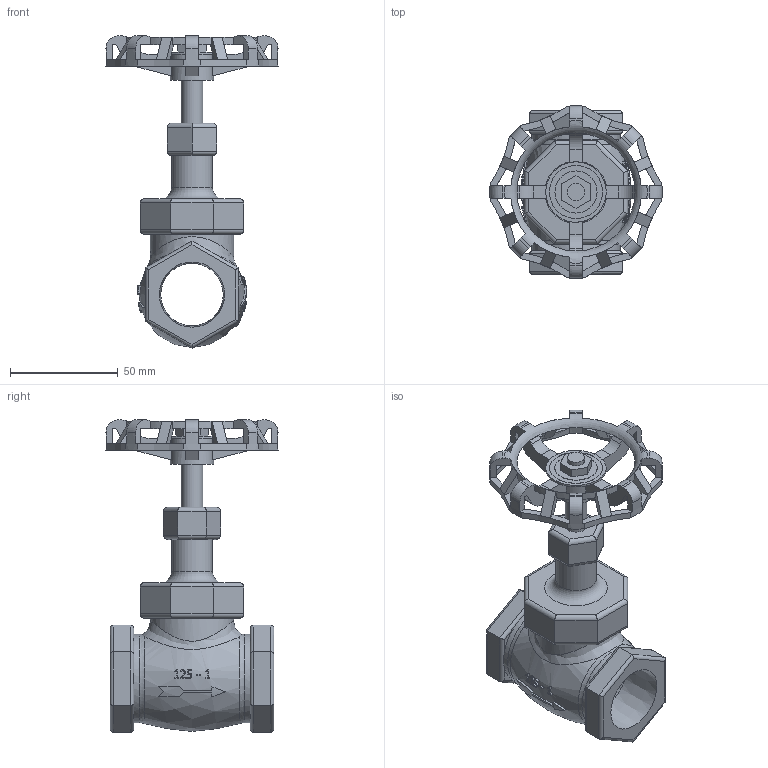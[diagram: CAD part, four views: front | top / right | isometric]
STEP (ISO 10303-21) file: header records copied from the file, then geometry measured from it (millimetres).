
FILE_DESCRIPTION(/* description */ ('ＴＯＹＯ'),/* implementation_level */ '2;1');
FILE_NAME(/* name */ 'C:\Users\Fujimoto-s\OneDrive\Inventor\WorkSpace\\X2\305D306E4ED6\X0\\ホームページ用\\X2\30C030A630F330ED30FC30C97D206750\X0\\ねじ込み継手\125C-BD-N-25A\125C-BD-N-25A.stp',/* time_stamp */ '2024-08-07T17:05:09+09:00',/* author */ ('Fujimoto-s'),/* organization */ (''),/* preprocessor_version */ 'ST-DEVELOPER v15.2',/* originating_system */ 'Autodesk Inventor 2014',/* authorisation */ '');
FILE_SCHEMA (('AUTOMOTIVE_DESIGN { 1 0 10303 214 3 1 1 }'));
Length unit declared in the file: millimetre
Products named in the file (1): 125C-BD-N-25A
Bounding box: 79.97 x 79.97 x 144.83 mm (x, y, z)
Volume: 142623.1 mm3; surface area: 40838.9 mm2
Topology: 1 solids, 1 shells, 585 faces, 1663 edges, 1074 vertices
Faces by surface type: plane 376, cylinder 127, bspline 68, torus 12, cone 2
Full cylindrical faces by diameter (mm): 8 x1, 10 x1, 19 x1, 19.576 x1, 20 x1, 24.648 x1, 28 x1, 29 x1, 38.6 x1, 41 x2
Entity records: 21229 total; most frequent: CARTESIAN_POINT 6398, ORIENTED_EDGE 3274, DIRECTION 2773, EDGE_CURVE 1637, VERTEX_POINT 1065, AXIS2_PLACEMENT_3D 994, LINE 785, VECTOR 785
